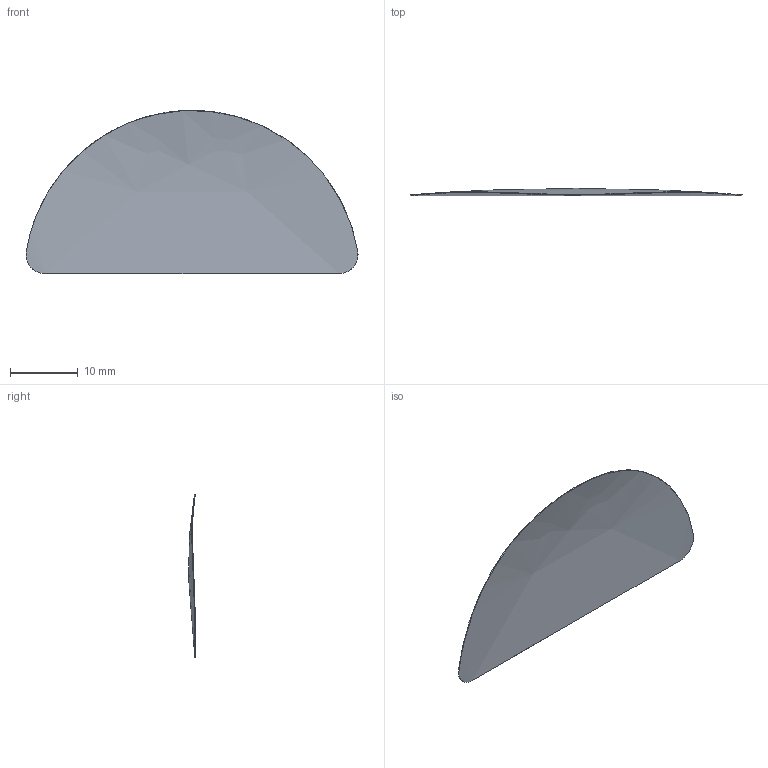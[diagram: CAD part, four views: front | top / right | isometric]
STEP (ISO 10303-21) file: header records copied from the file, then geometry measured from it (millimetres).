
FILE_DESCRIPTION(('THIS FILE CONTAINS SOME STEP INSTANCES'),'1');
FILE_NAME('lux_083.stp','2015-12-18T 9:47:54',('UNDEFINED'),('UNDEFINED'),'T-FLEX CAD STEP converter','T-FLEX CAD','');
FILE_SCHEMA(('CONFIG_CONTROL_DESIGN'));
Length unit declared in the file: metre
Products named in the file (1): 砱鋋_9
Bounding box: 49.06 x 1.03 x 24.16 mm (x, y, z)
Volume: 92.9 mm3; surface area: 1876 mm2
Topology: 1 solids, 1 shells, 6 faces, 12 edges, 8 vertices
Faces by surface type: bspline 6
Entity records: 1600 total; most frequent: CARTESIAN_POINT 1497, ORIENTED_EDGE 24, EDGE_CURVE 12, B_SPLINE_CURVE_WITH_KNOTS 12, VERTEX_POINT 8, ADVANCED_FACE 6, B_SPLINE_SURFACE_WITH_KNOTS 6, FACE_OUTER_BOUND 6
